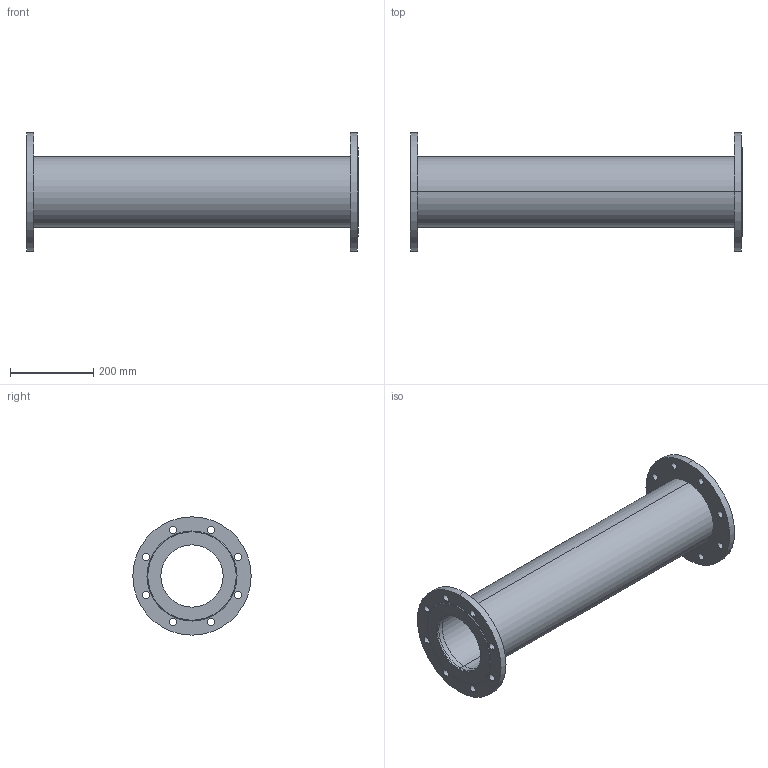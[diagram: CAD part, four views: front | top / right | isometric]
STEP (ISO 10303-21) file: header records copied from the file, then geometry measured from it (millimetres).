
FILE_DESCRIPTION(('STEP AP214'),'1');
FILE_NAME('U:/VDI-Daten/8500/8500_PN16_DN150_L800.STP','2012-06-12T15:32:54',(' '),(' '),'Spatial InterOp 3D',' ',' ');
FILE_SCHEMA(('automotive_design'));
Length unit declared in the file: millimetre
Products named in the file (5): 3D-Objekt
Bounding box: 800 x 285 x 285 mm (x, y, z)
Volume: 5519328.5 mm3; surface area: 1117666.3 mm2
Topology: 5 solids, 5 shells, 62 faces, 156 edges, 104 vertices
Faces by surface type: cylinder 48, plane 10, cone 4
Entity records: 2621 total; most frequent: DIRECTION 394, CARTESIAN_POINT 327, ORIENTED_EDGE 312, AXIS2_PLACEMENT_3D 171, EDGE_CURVE 156, EDGE_LOOP 104, VERTEX_POINT 104, CIRCLE 104
